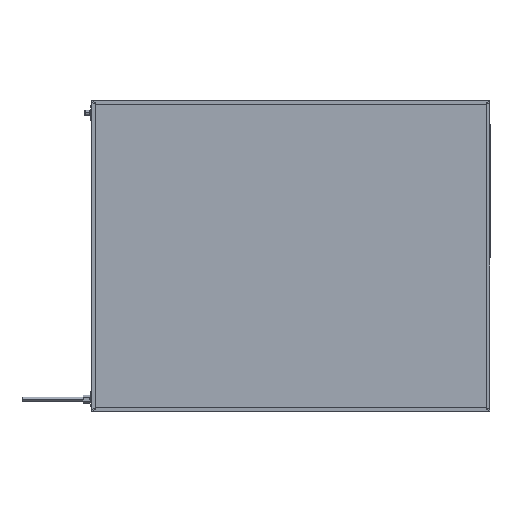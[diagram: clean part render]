
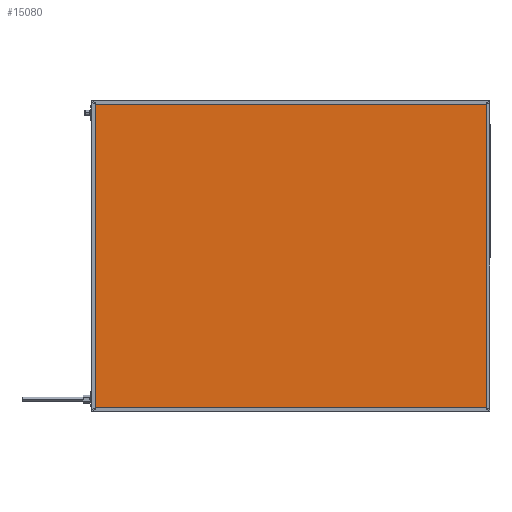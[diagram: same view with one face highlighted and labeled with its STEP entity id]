
A CAD part, top view. The second image highlights one B-rep face of the part: STEP entity #15080.
In plain terms, the highlighted planar face has unit normal (0, 0, 1).
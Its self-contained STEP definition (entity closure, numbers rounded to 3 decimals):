
#20 = CARTESIAN_POINT ( 'NONE',  ( 0., 0., 41.85 ) ) ;
#229 = LINE ( 'NONE', #11369, #6232 ) ;
#651 = LINE ( 'NONE', #14425, #4111 ) ;
#728 = CARTESIAN_POINT ( 'NONE',  ( 4., 4., 41.85 ) ) ;
#1034 = LINE ( 'NONE', #6609, #16879 ) ;
#1218 = PLANE ( 'NONE',  #14972 ) ;
#2123 = EDGE_CURVE ( 'NONE', #15593, #11277, #6018, .T. ) ;
#4029 = EDGE_LOOP ( 'NONE', ( #11626, #8140, #17264, #15634 ) ) ;
#4111 = VECTOR ( 'NONE', #11517, 1000. ) ;
#6018 = LINE ( 'NONE', #11573, #6647 ) ;
#6232 = VECTOR ( 'NONE', #10013, 1000. ) ;
#6609 = CARTESIAN_POINT ( 'NONE',  ( 0., 4., 41.85 ) ) ;
#6647 = VECTOR ( 'NONE', #14131, 1000. ) ;
#6919 = VERTEX_POINT ( 'NONE', #7895 ) ;
#7895 = CARTESIAN_POINT ( 'NONE',  ( 896., 696., 41.85 ) ) ;
#8066 = EDGE_CURVE ( 'NONE', #11277, #16983, #1034, .T. ) ;
#8140 = ORIENTED_EDGE ( 'NONE', *, *, #9255, .T. ) ;
#9180 = CARTESIAN_POINT ( 'NONE',  ( 896., 4., 41.85 ) ) ;
#9255 = EDGE_CURVE ( 'NONE', #6919, #15593, #651, .T. ) ;
#10013 = DIRECTION ( 'NONE',  ( 0., 1., 0. ) ) ;
#10229 = CARTESIAN_POINT ( 'NONE',  ( 4., 696., 41.85 ) ) ;
#11277 = VERTEX_POINT ( 'NONE', #728 ) ;
#11369 = CARTESIAN_POINT ( 'NONE',  ( 896., 0., 41.85 ) ) ;
#11517 = DIRECTION ( 'NONE',  ( -1., 0., 0. ) ) ;
#11573 = CARTESIAN_POINT ( 'NONE',  ( 4., 0., 41.85 ) ) ;
#11626 = ORIENTED_EDGE ( 'NONE', *, *, #12545, .T. ) ;
#12545 = EDGE_CURVE ( 'NONE', #16983, #6919, #229, .T. ) ;
#13622 = DIRECTION ( 'NONE',  ( 1., 0., 0. ) ) ;
#14131 = DIRECTION ( 'NONE',  ( 0., -1., 0. ) ) ;
#14425 = CARTESIAN_POINT ( 'NONE',  ( 0., 696., 41.85 ) ) ;
#14972 = AXIS2_PLACEMENT_3D ( 'NONE', #20, #16713, #15261 ) ;
#15080 = ADVANCED_FACE ( 'NONE', ( #16542 ), #1218, .F. ) ;
#15261 = DIRECTION ( 'NONE',  ( -1., 0., 0. ) ) ;
#15593 = VERTEX_POINT ( 'NONE', #10229 ) ;
#15634 = ORIENTED_EDGE ( 'NONE', *, *, #8066, .T. ) ;
#16542 = FACE_OUTER_BOUND ( 'NONE', #4029, .T. ) ;
#16713 = DIRECTION ( 'NONE',  ( 0., 0., -1. ) ) ;
#16879 = VECTOR ( 'NONE', #13622, 1000. ) ;
#16983 = VERTEX_POINT ( 'NONE', #9180 ) ;
#17264 = ORIENTED_EDGE ( 'NONE', *, *, #2123, .T. ) ;
